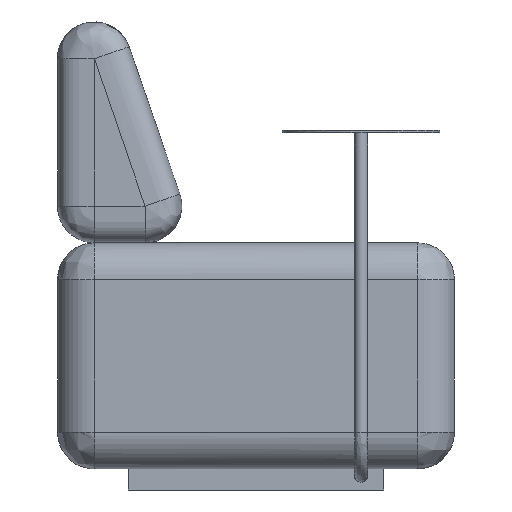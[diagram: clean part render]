
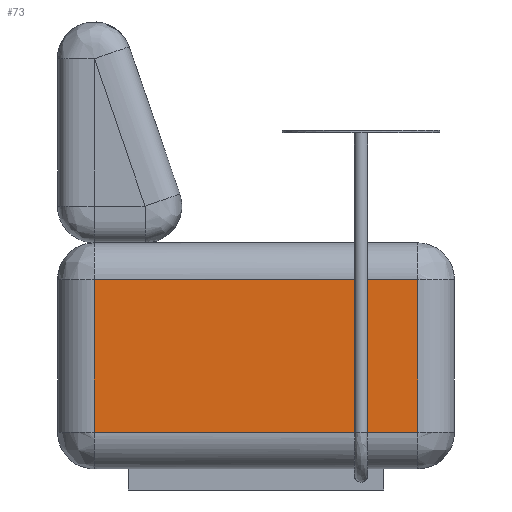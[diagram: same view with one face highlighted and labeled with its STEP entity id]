
A CAD part, left-side view. The second image highlights one B-rep face of the part: STEP entity #73.
In plain terms, the highlighted free-form (B-spline) face has degree [1, 1] with [2, 2] control points.
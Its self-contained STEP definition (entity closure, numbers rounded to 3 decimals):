
#73=ADVANCED_FACE('',(#141),#1697,.T.);
#141=FACE_OUTER_BOUND('',#209,.T.);
#209=EDGE_LOOP('',(#383,#384,#385,#386));
#383=ORIENTED_EDGE('',*,*,#1459,.F.);
#384=ORIENTED_EDGE('',*,*,#1492,.F.);
#385=ORIENTED_EDGE('',*,*,#1476,.F.);
#386=ORIENTED_EDGE('',*,*,#1493,.F.);
#563=PCURVE('',#1721,#811);
#587=PCURVE('',#1726,#835);
#626=PCURVE('',#1732,#874);
#628=PCURVE('',#1733,#876);
#631=PCURVE('',#1697,#879);
#632=PCURVE('',#1697,#880);
#633=PCURVE('',#1697,#881);
#634=PCURVE('',#1697,#882);
#811=DEFINITIONAL_REPRESENTATION('',(#1070),#4896);
#835=DEFINITIONAL_REPRESENTATION('',(#1102),#4896);
#874=DEFINITIONAL_REPRESENTATION('',(#1156),#4896);
#876=DEFINITIONAL_REPRESENTATION('',(#1159),#4896);
#879=DEFINITIONAL_REPRESENTATION('',(#1162),#4896);
#880=DEFINITIONAL_REPRESENTATION('',(#1163),#4896);
#881=DEFINITIONAL_REPRESENTATION('',(#1164),#4896);
#882=DEFINITIONAL_REPRESENTATION('',(#1165),#4896);
#1069=B_SPLINE_CURVE_WITH_KNOTS('',1,(#3219,#3220),.UNSPECIFIED.,.F.,.F.,
(2,2),(-1.,0.),.UNSPECIFIED.);
#1070=B_SPLINE_CURVE_WITH_KNOTS('',1,(#3221,#3222),.UNSPECIFIED.,.F.,.F.,
(2,2),(-1.,0.),.UNSPECIFIED.);
#1101=B_SPLINE_CURVE_WITH_KNOTS('',1,(#3336,#3337),.UNSPECIFIED.,.F.,.F.,
(2,2),(0.,1.),.UNSPECIFIED.);
#1102=B_SPLINE_CURVE_WITH_KNOTS('',1,(#3338,#3339),.UNSPECIFIED.,.F.,.F.,
(2,2),(0.,1.),.UNSPECIFIED.);
#1155=B_SPLINE_CURVE_WITH_KNOTS('',1,(#3858,#3859),.UNSPECIFIED.,.F.,.F.,
(2,2),(-1.,0.),.UNSPECIFIED.);
#1156=B_SPLINE_CURVE_WITH_KNOTS('',1,(#3860,#3861),.UNSPECIFIED.,.F.,.F.,
(2,2),(-1.,0.),.UNSPECIFIED.);
#1158=B_SPLINE_CURVE_WITH_KNOTS('',1,(#3864,#3865),.UNSPECIFIED.,.F.,.F.,
(2,2),(-1.,0.),.UNSPECIFIED.);
#1159=B_SPLINE_CURVE_WITH_KNOTS('',1,(#3866,#3867),.UNSPECIFIED.,.F.,.F.,
(2,2),(-1.,0.),.UNSPECIFIED.);
#1162=B_SPLINE_CURVE_WITH_KNOTS('',1,(#3872,#3873),.UNSPECIFIED.,.F.,.F.,
(2,2),(-1.,0.),.UNSPECIFIED.);
#1163=B_SPLINE_CURVE_WITH_KNOTS('',1,(#3874,#3875),.UNSPECIFIED.,.F.,.F.,
(2,2),(-1.,0.),.UNSPECIFIED.);
#1164=B_SPLINE_CURVE_WITH_KNOTS('',1,(#3876,#3877),.UNSPECIFIED.,.F.,.F.,
(2,2),(0.,1.),.UNSPECIFIED.);
#1165=B_SPLINE_CURVE_WITH_KNOTS('',1,(#3878,#3879),.UNSPECIFIED.,.F.,.F.,
(2,2),(-1.,0.),.UNSPECIFIED.);
#1335=SURFACE_CURVE('',#1069,(#563,#631),.PCURVE_S1.);
#1352=SURFACE_CURVE('',#1101,(#587,#633),.PCURVE_S1.);
#1368=SURFACE_CURVE('',#1155,(#626,#632),.PCURVE_S1.);
#1369=SURFACE_CURVE('',#1158,(#628,#634),.PCURVE_S1.);
#1459=EDGE_CURVE('',#1637,#1639,#1335,.T.);
#1476=EDGE_CURVE('',#1650,#1648,#1352,.T.);
#1492=EDGE_CURVE('',#1648,#1637,#1368,.T.);
#1493=EDGE_CURVE('',#1639,#1650,#1369,.T.);
#1637=VERTEX_POINT('',#3105);
#1639=VERTEX_POINT('',#3107);
#1648=VERTEX_POINT('',#3116);
#1650=VERTEX_POINT('',#3118);
#1697=B_SPLINE_SURFACE_WITH_KNOTS('',1,1,((#3054,#3055),(#3056,#3057)),
 .UNSPECIFIED.,.F.,.F.,.F.,(2,2),(2,2),(-145.,145.),(-287.5,
327.5),.UNSPECIFIED.);
#1721=(
BOUNDED_SURFACE()
B_SPLINE_SURFACE(3,1,((#2906,#2907),(#2908,#2909),(#2910,#2911),(#2912,
#2913)),.UNSPECIFIED.,.F.,.F.,.F.)
B_SPLINE_SURFACE_WITH_KNOTS((4,4),(2,2),(0.,1.),(0.,1.),.UNSPECIFIED.)
GEOMETRIC_REPRESENTATION_ITEM()
RATIONAL_B_SPLINE_SURFACE(((1.,1.),(0.805,0.805),
(0.805,0.805),(1.,1.)))
REPRESENTATION_ITEM('')
SURFACE()
);
#1726=(
BOUNDED_SURFACE()
B_SPLINE_SURFACE(3,1,((#2966,#2967),(#2968,#2969),(#2970,#2971),(#2972,
#2973)),.UNSPECIFIED.,.F.,.F.,.F.)
B_SPLINE_SURFACE_WITH_KNOTS((4,4),(2,2),(0.,1.),(0.,1.),.UNSPECIFIED.)
GEOMETRIC_REPRESENTATION_ITEM()
RATIONAL_B_SPLINE_SURFACE(((1.,1.),(0.805,0.805),
(0.805,0.805),(1.,1.)))
REPRESENTATION_ITEM('')
SURFACE()
);
#1732=(
BOUNDED_SURFACE()
B_SPLINE_SURFACE(3,1,((#3038,#3039),(#3040,#3041),(#3042,#3043),(#3044,
#3045)),.UNSPECIFIED.,.F.,.F.,.F.)
B_SPLINE_SURFACE_WITH_KNOTS((4,4),(2,2),(0.,1.),(0.,1.),.UNSPECIFIED.)
GEOMETRIC_REPRESENTATION_ITEM()
RATIONAL_B_SPLINE_SURFACE(((1.,1.),(0.805,0.805),
(0.805,0.805),(1.,1.)))
REPRESENTATION_ITEM('')
SURFACE()
);
#1733=(
BOUNDED_SURFACE()
B_SPLINE_SURFACE(3,1,((#3046,#3047),(#3048,#3049),(#3050,#3051),(#3052,
#3053)),.UNSPECIFIED.,.F.,.F.,.F.)
B_SPLINE_SURFACE_WITH_KNOTS((4,4),(2,2),(0.,1.),(0.,1.),.UNSPECIFIED.)
GEOMETRIC_REPRESENTATION_ITEM()
RATIONAL_B_SPLINE_SURFACE(((1.,1.),(0.805,0.805),
(0.805,0.805),(1.,1.)))
REPRESENTATION_ITEM('')
SURFACE()
);
#2906=CARTESIAN_POINT('',(-830.,-357.5,400.));
#2907=CARTESIAN_POINT('',(-830.,-357.5,110.));
#2908=CARTESIAN_POINT('',(-871.005,-357.5,400.));
#2909=CARTESIAN_POINT('',(-871.005,-357.5,110.));
#2910=CARTESIAN_POINT('',(-900.,-328.505,400.));
#2911=CARTESIAN_POINT('',(-900.,-328.505,110.));
#2912=CARTESIAN_POINT('',(-900.,-287.5,400.));
#2913=CARTESIAN_POINT('',(-900.,-287.5,110.));
#2966=CARTESIAN_POINT('',(-900.,327.5,400.));
#2967=CARTESIAN_POINT('',(-900.,327.5,110.));
#2968=CARTESIAN_POINT('',(-900.,368.505,400.));
#2969=CARTESIAN_POINT('',(-900.,368.505,110.));
#2970=CARTESIAN_POINT('',(-871.005,397.5,400.));
#2971=CARTESIAN_POINT('',(-871.005,397.5,110.));
#2972=CARTESIAN_POINT('',(-830.,397.5,400.));
#2973=CARTESIAN_POINT('',(-830.,397.5,110.));
#3038=CARTESIAN_POINT('',(-830.,327.5,470.));
#3039=CARTESIAN_POINT('',(-830.,-287.5,470.));
#3040=CARTESIAN_POINT('',(-871.005,327.5,470.));
#3041=CARTESIAN_POINT('',(-871.005,-287.5,470.));
#3042=CARTESIAN_POINT('',(-900.,327.5,441.005));
#3043=CARTESIAN_POINT('',(-900.,-287.5,441.005));
#3044=CARTESIAN_POINT('',(-900.,327.5,400.));
#3045=CARTESIAN_POINT('',(-900.,-287.5,400.));
#3046=CARTESIAN_POINT('',(-900.,327.5,110.));
#3047=CARTESIAN_POINT('',(-900.,-287.5,110.));
#3048=CARTESIAN_POINT('',(-900.,327.5,68.995));
#3049=CARTESIAN_POINT('',(-900.,-287.5,68.995));
#3050=CARTESIAN_POINT('',(-871.005,327.5,40.));
#3051=CARTESIAN_POINT('',(-871.005,-287.5,40.));
#3052=CARTESIAN_POINT('',(-830.,327.5,40.));
#3053=CARTESIAN_POINT('',(-830.,-287.5,40.));
#3054=CARTESIAN_POINT('',(-900.,-287.5,110.));
#3055=CARTESIAN_POINT('',(-900.,327.5,110.));
#3056=CARTESIAN_POINT('',(-900.,-287.5,400.));
#3057=CARTESIAN_POINT('',(-900.,327.5,400.));
#3105=CARTESIAN_POINT('',(-900.,-287.5,400.));
#3107=CARTESIAN_POINT('',(-900.,-287.5,110.));
#3116=CARTESIAN_POINT('',(-900.,327.5,400.));
#3118=CARTESIAN_POINT('',(-900.,327.5,110.));
#3219=CARTESIAN_POINT('',(-900.,-287.5,400.));
#3220=CARTESIAN_POINT('',(-900.,-287.5,110.));
#3221=CARTESIAN_POINT('',(1.,0.));
#3222=CARTESIAN_POINT('',(1.,1.));
#3336=CARTESIAN_POINT('',(-900.,327.5,110.));
#3337=CARTESIAN_POINT('',(-900.,327.5,400.));
#3338=CARTESIAN_POINT('',(0.,1.));
#3339=CARTESIAN_POINT('',(0.,0.));
#3858=CARTESIAN_POINT('',(-900.,327.5,400.));
#3859=CARTESIAN_POINT('',(-900.,-287.5,400.));
#3860=CARTESIAN_POINT('',(1.,0.));
#3861=CARTESIAN_POINT('',(1.,1.));
#3864=CARTESIAN_POINT('',(-900.,-287.5,110.));
#3865=CARTESIAN_POINT('',(-900.,327.5,110.));
#3866=CARTESIAN_POINT('',(0.,1.));
#3867=CARTESIAN_POINT('',(0.,0.));
#3872=CARTESIAN_POINT('',(145.,-287.5));
#3873=CARTESIAN_POINT('',(-145.,-287.5));
#3874=CARTESIAN_POINT('',(145.,327.5));
#3875=CARTESIAN_POINT('',(145.,-287.5));
#3876=CARTESIAN_POINT('',(-145.,327.5));
#3877=CARTESIAN_POINT('',(145.,327.5));
#3878=CARTESIAN_POINT('',(-145.,-287.5));
#3879=CARTESIAN_POINT('',(-145.,327.5));
#4896=(
GEOMETRIC_REPRESENTATION_CONTEXT(2)
PARAMETRIC_REPRESENTATION_CONTEXT()
REPRESENTATION_CONTEXT('pspace','')
);
